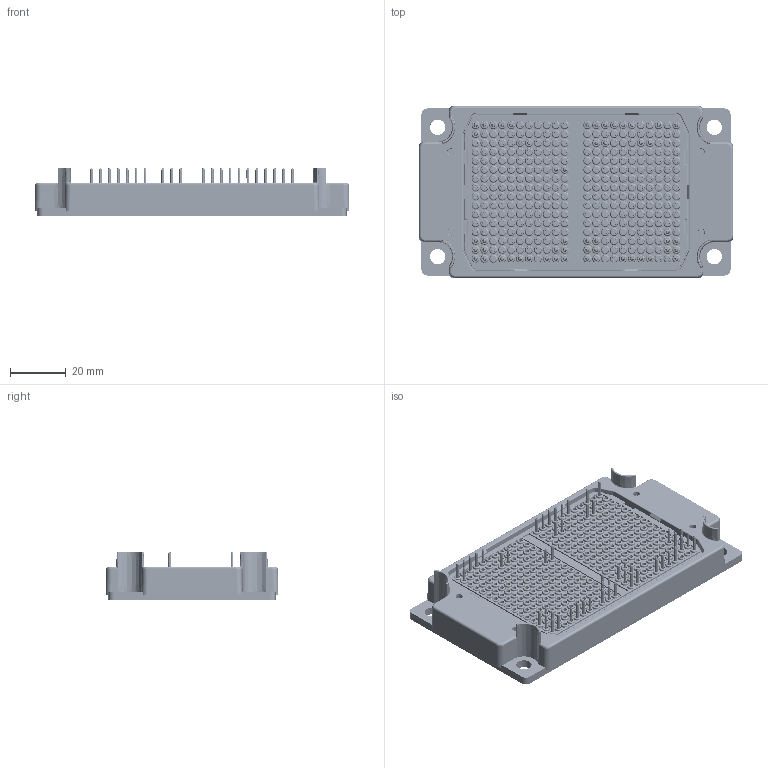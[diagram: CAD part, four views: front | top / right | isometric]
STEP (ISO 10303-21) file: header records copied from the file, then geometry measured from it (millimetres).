
FILE_DESCRIPTION((''),'2;1');
FILE_NAME('AMG375L65P4S5RC_V1-R1_ASM','2024-06-03T17:07:43',('yanbing.guo'),(''),'CREO PARAMETRIC BY PTC INC, 2022073','CREO PARAMETRIC BY PTC INC, 2022073','');
FILE_SCHEMA(('CONFIG_CONTROL_DESIGN','SHAPE_APPEARANCE_LAYERS_GROUPS'));
Products named in the file (7): M1006F2AX001-S_ACF0001; LAYOUT-V1_ASM; M1210P4CE001__ACP-0001; M1317P4CQ001__ACP-0001; M1409P4CQ001__ACP-0001; HOUSING-R1_ASM; AMG375L65P4S5RC_V1-R1_ASM
Assembly tree (59 placements, depth 3):
  AMG375L65P4S5RC_V1-R1_ASM
    LAYOUT-V1_ASM
      M1006F2AX001-S_ACF0001  x54
    HOUSING-R1_ASM
      M1210P4CE001__ACP-0001
      M1317P4CQ001__ACP-0001
      M1409P4CQ001__ACP-0001
Bounding box: 113 x 62 x 17.3 mm (x, y, z)
Volume: 39964 mm3; surface area: 43115.9 mm2
Topology: 57 solids, 57 shells, 10125 faces, 24744 edges, 14699 vertices
Faces by surface type: cone 3712, plane 3398, torus 1596, cylinder 876, bspline 488, sphere 28, extrusion 27
Entity records: 238495 total; most frequent: CARTESIAN_POINT 53238, DIRECTION 42306, ORIENTED_EDGE 36688, EDGE_CURVE 18344, AXIS2_PLACEMENT_3D 17684, VERTEX_POINT 10989, CIRCLE 9912, EDGE_LOOP 8831
